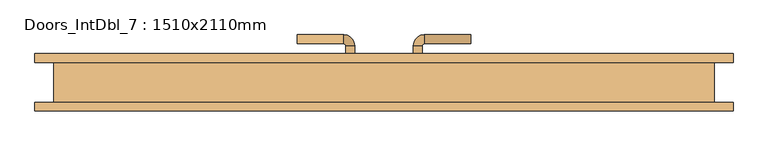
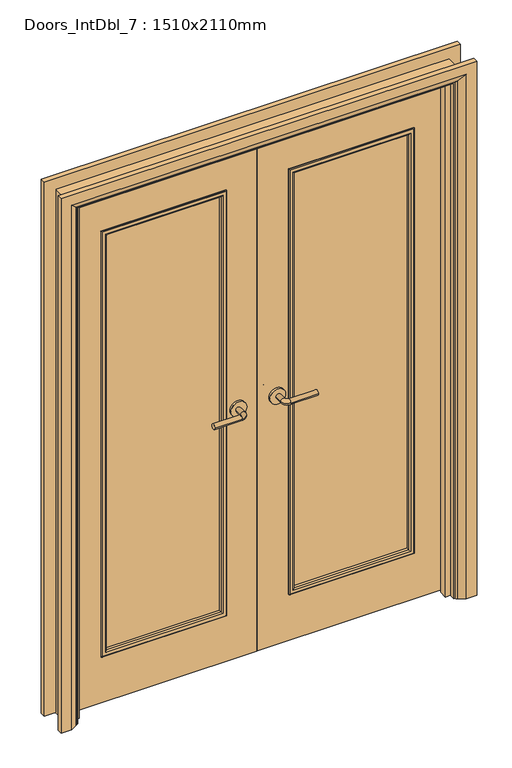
"""IFC4 building model written with IfcOpenShell, lengths in millimetres: door geometry, Doors_IntDbl_7 : 1510x2110mm."""

from ifc_helpers import new_model, si_unit, point, frame, frame_2d, origin, place, context, project, spatial, polyline, circle_curve, ellipse_curve, trimmed, segment, composite_curve, outline, extrude, faceted_brep, source, transform, mapped, element, save
from ifc_brep_helpers import plane_surface, cylinder_surface, revolved_surface, advanced_brep


def doors_intdbl_7_1510x2110mm_5c3abf43(model_context):
    return source(origin(), model_context, "Body", "SolidModel", [
        advanced_brep(
        [(-66.5, 5.0, 1007.0), (-86.5, 5.0, 1007.0), (-66.5, -25.0, 1007.0), (-86.5, -25.0, 1007.0), (-91.5, -30.0, 1007.0), (-91.5, -50.0, 1007.0), (-196.5, -50.0, 1007.0), (-196.5, -30.0, 1007.0)],
        [
            (0, 1, circle_curve(frame((-76.5, 5.0, 1007.0), z_axis=(0.0, 1.0, 0.0), x_axis=(-1.0, 0.0, 0.0)), 10.0)),
            (1, 0, circle_curve(frame((-76.5, 5.0, 1007.0), z_axis=(0.0, 1.0, 0.0), x_axis=(-1.0, 0.0, 0.0)), 10.0)),
            (0, 2),
            (2, 3, circle_curve(frame((-76.5, -25.0, 1007.0), z_axis=(0.0, 1.0, 0.0), x_axis=(-1.0, 0.0, 0.0)), 10.0)),
            (3, 1),
            (3, 2, circle_curve(frame((-76.5, -25.0, 1007.0), z_axis=(0.0, 1.0, 0.0), x_axis=(-1.0, 0.0, 0.0)), 10.0)),
            (4, 3, circle_curve(frame((-91.5, -25.0, 1007.0), z_axis=(0.0, 0.0, 1.0), x_axis=(1.0, 0.0, 0.0)), 5.0)),
            (2, 5, circle_curve(frame((-91.5, -25.0, 1007.0), z_axis=(0.0, 0.0, -1.0), x_axis=(1.0, 0.0, 0.0)), 25.0)),
            (5, 4, circle_curve(frame((-91.5, -40.0, 1007.0), z_axis=(1.0, 0.0, 0.0), x_axis=(0.0, 1.0, 0.0)), 10.0)),
            (4, 5, circle_curve(frame((-91.5, -40.0, 1007.0), z_axis=(1.0, 0.0, 0.0), x_axis=(0.0, 1.0, 0.0)), 10.0)),
            (6, 7, circle_curve(frame((-196.5, -40.0, 1007.0), z_axis=(-1.0, 0.0, 0.0), x_axis=(0.0, 1.0, 0.0)), 10.0)),
            (7, 6, circle_curve(frame((-196.5, -40.0, 1007.0), z_axis=(-1.0, 0.0, 0.0), x_axis=(0.0, 1.0, 0.0)), 10.0)),
            (5, 6),
            (7, 4),
        ],
        [
            plane_surface(frame((-76.5, 5.0, 1007.0), z_axis=(0.0, 1.0, 0.0), x_axis=(0.0, 0.0, 1.0))),
            cylinder_surface(frame((-76.5, 5.0, 1007.0), z_axis=(0.0, 1.0, 0.0), x_axis=(-1.0, 0.0, 0.0)), 10.0),
            revolved_surface(trimmed(ellipse_curve(frame((-76.5, -25.0, 1007.0), z_axis=(0.0, 1.0, 0.0), x_axis=(-1.0, 0.0, 0.0)), 10.0, 10.0), [point((-66.5, -25.0, 1007.0))], [point((-86.5, -25.0, 1007.0))], True, "CARTESIAN"), (-91.5, -25.0, 1007.0), (0.0, 0.0, -1.0)),
            revolved_surface(trimmed(ellipse_curve(frame((-76.5, -25.0, 1007.0), z_axis=(0.0, 1.0, 0.0), x_axis=(-1.0, 0.0, 0.0)), 10.0, 10.0), [point((-86.5, -25.0, 1007.0))], [point((-66.5, -25.0, 1007.0))], True, "CARTESIAN"), (-91.5, -25.0, 1007.0), (0.0, 0.0, -1.0)),
            plane_surface(frame((-196.5, -40.0, 1007.0), z_axis=(-1.0, 0.0, 0.0), x_axis=(0.0, 0.0, 1.0))),
            cylinder_surface(frame((-91.5, -40.0, 1007.0), z_axis=(1.0, 0.0, 0.0), x_axis=(0.0, 1.0, 0.0)), 10.0),
        ],
        [
            (0, [[1, 2]]),
            (1, [[-1, 3, 4, 5]]),
            (1, [[-2, -5, 6, -3]]),
            (2, [[7, -4, 8, 9]]),
            (3, [[-8, -6, -7, 10]]),
            (4, [[11, 12]]),
            (5, [[-9, 13, -12, 14]]),
            (5, [[-10, -14, -11, -13]]),
        ],
    ),
        extrude(outline(composite_curve([segment(trimmed(circle_curve(frame_2d((1007.0, -74.0)), 30.0), [point((1007.0, -44.0))], [point((1007.0, -104.0))], False, "CARTESIAN"), True, "CONTINUOUS"), segment(trimmed(circle_curve(frame_2d((1007.0, -74.0)), 30.0), [point((1007.0, -104.0))], [point((1007.0, -44.0))], False, "CARTESIAN"), True, "CONTINUOUS")], self_intersect=False)), frame((0.0, 5.0, 0.0), z_axis=(0.0, 1.0, 0.0), x_axis=(0.0, 0.0, 1.0)), (0.0, 0.0, 1.0), 8.0),
        advanced_brep(
        [(-66.5, 53.0, 1007.0), (-86.5, 53.0, 1007.0), (-86.5, 83.0, 1007.0), (-66.5, 83.0, 1007.0), (-91.5, 88.0, 1007.0), (-91.5, 108.0, 1007.0), (-196.5, 108.0, 1007.0), (-196.5, 88.0, 1007.0)],
        [
            (0, 1, circle_curve(frame((-76.5, 53.0, 1007.0), z_axis=(0.0, -1.0, 0.0), x_axis=(-1.0, 0.0, 0.0)), 10.0)),
            (1, 0, circle_curve(frame((-76.5, 53.0, 1007.0), z_axis=(0.0, -1.0, 0.0), x_axis=(-1.0, 0.0, 0.0)), 10.0)),
            (1, 2),
            (2, 3, circle_curve(frame((-76.5, 83.0, 1007.0), z_axis=(0.0, -1.0, 0.0), x_axis=(-1.0, 0.0, 0.0)), 10.0)),
            (3, 0),
            (3, 2, circle_curve(frame((-76.5, 83.0, 1007.0), z_axis=(0.0, -1.0, 0.0), x_axis=(-1.0, 0.0, 0.0)), 10.0)),
            (4, 5, circle_curve(frame((-91.5, 98.0, 1007.0), z_axis=(1.0, 0.0, 0.0), x_axis=(0.0, -1.0, 0.0)), 10.0)),
            (5, 3, circle_curve(frame((-91.5, 83.0, 1007.0), z_axis=(0.0, 0.0, -1.0), x_axis=(1.0, 0.0, 0.0)), 25.0)),
            (2, 4, circle_curve(frame((-91.5, 83.0, 1007.0), z_axis=(0.0, 0.0, 1.0), x_axis=(1.0, 0.0, 0.0)), 5.0)),
            (5, 4, circle_curve(frame((-91.5, 98.0, 1007.0), z_axis=(1.0, 0.0, 0.0), x_axis=(0.0, -1.0, 0.0)), 10.0)),
            (6, 7, circle_curve(frame((-196.5, 98.0, 1007.0), z_axis=(-1.0, 0.0, 0.0), x_axis=(0.0, -1.0, 0.0)), 10.0)),
            (7, 6, circle_curve(frame((-196.5, 98.0, 1007.0), z_axis=(-1.0, 0.0, 0.0), x_axis=(0.0, -1.0, 0.0)), 10.0)),
            (4, 7),
            (6, 5),
        ],
        [
            plane_surface(frame((-76.5, 53.0, 1007.0), z_axis=(0.0, -1.0, 0.0), x_axis=(0.0, 0.0, 1.0))),
            cylinder_surface(frame((-76.5, 53.0, 1007.0), z_axis=(0.0, -1.0, 0.0), x_axis=(-1.0, 0.0, 0.0)), 10.0),
            revolved_surface(trimmed(ellipse_curve(frame((-76.5, 83.0, 1007.0), z_axis=(0.0, 1.0, 0.0), x_axis=(-1.0, 0.0, 0.0)), 10.0, 10.0), [point((-66.5, 83.0, 1007.0))], [point((-86.5, 83.0, 1007.0))], True, "CARTESIAN"), (-91.5, 83.0, 1007.0), (0.0, 0.0, -1.0)),
            revolved_surface(trimmed(ellipse_curve(frame((-76.5, 83.0, 1007.0), z_axis=(0.0, 1.0, 0.0), x_axis=(-1.0, 0.0, 0.0)), 10.0, 10.0), [point((-86.5, 83.0, 1007.0))], [point((-66.5, 83.0, 1007.0))], True, "CARTESIAN"), (-91.5, 83.0, 1007.0), (0.0, 0.0, -1.0)),
            plane_surface(frame((-196.5, 98.0, 1007.0), z_axis=(-1.0, 0.0, 0.0), x_axis=(0.0, 0.0, 1.0))),
            cylinder_surface(frame((-91.5, 98.0, 1007.0), z_axis=(1.0, 0.0, 0.0), x_axis=(0.0, -1.0, 0.0)), 10.0),
        ],
        [
            (0, [[1, 2]]),
            (1, [[3, 4, 5, -2]]),
            (1, [[-5, 6, -3, -1]]),
            (2, [[7, 8, -4, 9]]),
            (3, [[10, -9, -6, -8]]),
            (4, [[11, 12]]),
            (5, [[13, -11, 14, -7]]),
            (5, [[-14, -12, -13, -10]]),
        ],
    ),
        extrude(outline(composite_curve([segment(trimmed(circle_curve(frame_2d((1007.0, -74.0)), 30.0), [point((1007.0, -44.0))], [point((1007.0, -104.0))], False, "CARTESIAN"), True, "CONTINUOUS"), segment(trimmed(circle_curve(frame_2d((1007.0, -74.0)), 30.0), [point((1007.0, -104.0))], [point((1007.0, -44.0))], False, "CARTESIAN"), True, "CONTINUOUS")], self_intersect=False)), frame((0.0, 45.0, 0.0), z_axis=(0.0, 1.0, 0.0), x_axis=(0.0, 0.0, 1.0)), (0.0, 0.0, 1.0), 8.0),
        advanced_brep(
        [(66.5, 5.0, 1007.0), (86.5, 5.0, 1007.0), (86.5, -25.0, 1007.0), (66.5, -25.0, 1007.0), (91.5, -30.0, 1007.0), (91.5, -50.0, 1007.0), (196.5, -50.0, 1007.0), (196.5, -30.0, 1007.0)],
        [
            (0, 1, circle_curve(frame((76.5, 5.0, 1007.0), z_axis=(0.0, 1.0, 0.0), x_axis=(1.0, 0.0, 0.0)), 10.0)),
            (1, 0, circle_curve(frame((76.5, 5.0, 1007.0), z_axis=(0.0, 1.0, 0.0), x_axis=(1.0, 0.0, 0.0)), 10.0)),
            (1, 2),
            (2, 3, circle_curve(frame((76.5, -25.0, 1007.0), z_axis=(0.0, 1.0, 0.0), x_axis=(1.0, 0.0, 0.0)), 10.0)),
            (3, 0),
            (3, 2, circle_curve(frame((76.5, -25.0, 1007.0), z_axis=(0.0, 1.0, 0.0), x_axis=(1.0, 0.0, 0.0)), 10.0)),
            (4, 5, circle_curve(frame((91.5, -40.0, 1007.0), z_axis=(-1.0, 0.0, 0.0), x_axis=(0.0, 1.0, 0.0)), 10.0)),
            (5, 3, circle_curve(frame((91.5, -25.0, 1007.0), z_axis=(0.0, 0.0, -1.0), x_axis=(-1.0, 0.0, 0.0)), 25.0)),
            (2, 4, circle_curve(frame((91.5, -25.0, 1007.0), z_axis=(0.0, 0.0, 1.0), x_axis=(-1.0, 0.0, 0.0)), 5.0)),
            (5, 4, circle_curve(frame((91.5, -40.0, 1007.0), z_axis=(-1.0, 0.0, 0.0), x_axis=(0.0, 1.0, 0.0)), 10.0)),
            (6, 7, circle_curve(frame((196.5, -40.0, 1007.0), z_axis=(1.0, 0.0, 0.0), x_axis=(0.0, 1.0, 0.0)), 10.0)),
            (7, 6, circle_curve(frame((196.5, -40.0, 1007.0), z_axis=(1.0, 0.0, 0.0), x_axis=(0.0, 1.0, 0.0)), 10.0)),
            (4, 7),
            (6, 5),
        ],
        [
            plane_surface(frame((76.5, 5.0, 1007.0), z_axis=(0.0, 1.0, 0.0), x_axis=(0.0, 0.0, 1.0))),
            cylinder_surface(frame((76.5, 5.0, 1007.0), z_axis=(0.0, 1.0, 0.0), x_axis=(1.0, 0.0, 0.0)), 10.0),
            revolved_surface(trimmed(ellipse_curve(frame((76.5, -25.0, 1007.0), z_axis=(0.0, -1.0, 0.0), x_axis=(1.0, 0.0, 0.0)), 10.0, 10.0), [point((66.5, -25.0, 1007.0))], [point((86.5, -25.0, 1007.0))], True, "CARTESIAN"), (91.5, -25.0, 1007.0), (0.0, 0.0, -1.0)),
            revolved_surface(trimmed(ellipse_curve(frame((76.5, -25.0, 1007.0), z_axis=(0.0, -1.0, 0.0), x_axis=(1.0, 0.0, 0.0)), 10.0, 10.0), [point((86.5, -25.0, 1007.0))], [point((66.5, -25.0, 1007.0))], True, "CARTESIAN"), (91.5, -25.0, 1007.0), (0.0, 0.0, -1.0)),
            plane_surface(frame((196.5, -40.0, 1007.0), z_axis=(1.0, 0.0, 0.0), x_axis=(0.0, 0.0, 1.0))),
            cylinder_surface(frame((91.5, -40.0, 1007.0), z_axis=(-1.0, 0.0, 0.0), x_axis=(0.0, 1.0, 0.0)), 10.0),
        ],
        [
            (0, [[1, 2]]),
            (1, [[3, 4, 5, -2]]),
            (1, [[-5, 6, -3, -1]]),
            (2, [[7, 8, -4, 9]]),
            (3, [[10, -9, -6, -8]]),
            (4, [[11, 12]]),
            (5, [[13, -11, 14, -7]]),
            (5, [[-14, -12, -13, -10]]),
        ],
    ),
        extrude(outline(composite_curve([segment(trimmed(circle_curve(frame_2d((1007.0, 74.0)), 30.0), [point((1007.0, 44.0))], [point((1007.0, 104.0))], False, "CARTESIAN"), True, "CONTINUOUS"), segment(trimmed(circle_curve(frame_2d((1007.0, 74.0)), 30.0), [point((1007.0, 104.0))], [point((1007.0, 44.0))], False, "CARTESIAN"), True, "CONTINUOUS")], self_intersect=False)), frame((0.0, 5.0, 0.0), z_axis=(0.0, 1.0, 0.0), x_axis=(0.0, 0.0, 1.0)), (0.0, 0.0, 1.0), 8.0),
        advanced_brep(
        [(66.5, 53.0, 1007.0), (86.5, 53.0, 1007.0), (66.5, 83.0, 1007.0), (86.5, 83.0, 1007.0), (91.5, 88.0, 1007.0), (91.5, 108.0, 1007.0), (196.5, 108.0, 1007.0), (196.5, 88.0, 1007.0)],
        [
            (0, 1, circle_curve(frame((76.5, 53.0, 1007.0), z_axis=(0.0, -1.0, 0.0), x_axis=(1.0, 0.0, 0.0)), 10.0)),
            (1, 0, circle_curve(frame((76.5, 53.0, 1007.0), z_axis=(0.0, -1.0, 0.0), x_axis=(1.0, 0.0, 0.0)), 10.0)),
            (0, 2),
            (2, 3, circle_curve(frame((76.5, 83.0, 1007.0), z_axis=(0.0, -1.0, 0.0), x_axis=(1.0, 0.0, 0.0)), 10.0)),
            (3, 1),
            (3, 2, circle_curve(frame((76.5, 83.0, 1007.0), z_axis=(0.0, -1.0, 0.0), x_axis=(1.0, 0.0, 0.0)), 10.0)),
            (4, 3, circle_curve(frame((91.5, 83.0, 1007.0), z_axis=(0.0, 0.0, 1.0), x_axis=(-1.0, 0.0, 0.0)), 5.0)),
            (2, 5, circle_curve(frame((91.5, 83.0, 1007.0), z_axis=(0.0, 0.0, -1.0), x_axis=(-1.0, 0.0, 0.0)), 25.0)),
            (5, 4, circle_curve(frame((91.5, 98.0, 1007.0), z_axis=(-1.0, 0.0, 0.0), x_axis=(0.0, -1.0, 0.0)), 10.0)),
            (4, 5, circle_curve(frame((91.5, 98.0, 1007.0), z_axis=(-1.0, 0.0, 0.0), x_axis=(0.0, -1.0, 0.0)), 10.0)),
            (6, 7, circle_curve(frame((196.5, 98.0, 1007.0), z_axis=(1.0, 0.0, 0.0), x_axis=(0.0, -1.0, 0.0)), 10.0)),
            (7, 6, circle_curve(frame((196.5, 98.0, 1007.0), z_axis=(1.0, 0.0, 0.0), x_axis=(0.0, -1.0, 0.0)), 10.0)),
            (5, 6),
            (7, 4),
        ],
        [
            plane_surface(frame((76.5, 53.0, 1007.0), z_axis=(0.0, -1.0, 0.0), x_axis=(0.0, 0.0, 1.0))),
            cylinder_surface(frame((76.5, 53.0, 1007.0), z_axis=(0.0, -1.0, 0.0), x_axis=(1.0, 0.0, 0.0)), 10.0),
            revolved_surface(trimmed(ellipse_curve(frame((76.5, 83.0, 1007.0), z_axis=(0.0, -1.0, 0.0), x_axis=(1.0, 0.0, 0.0)), 10.0, 10.0), [point((66.5, 83.0, 1007.0))], [point((86.5, 83.0, 1007.0))], True, "CARTESIAN"), (91.5, 83.0, 1007.0), (0.0, 0.0, -1.0)),
            revolved_surface(trimmed(ellipse_curve(frame((76.5, 83.0, 1007.0), z_axis=(0.0, -1.0, 0.0), x_axis=(1.0, 0.0, 0.0)), 10.0, 10.0), [point((86.5, 83.0, 1007.0))], [point((66.5, 83.0, 1007.0))], True, "CARTESIAN"), (91.5, 83.0, 1007.0), (0.0, 0.0, -1.0)),
            plane_surface(frame((196.5, 98.0, 1007.0), z_axis=(1.0, 0.0, 0.0), x_axis=(0.0, 0.0, 1.0))),
            cylinder_surface(frame((91.5, 98.0, 1007.0), z_axis=(-1.0, 0.0, 0.0), x_axis=(0.0, -1.0, 0.0)), 10.0),
        ],
        [
            (0, [[1, 2]]),
            (1, [[-1, 3, 4, 5]]),
            (1, [[-2, -5, 6, -3]]),
            (2, [[7, -4, 8, 9]]),
            (3, [[-8, -6, -7, 10]]),
            (4, [[11, 12]]),
            (5, [[-9, 13, -12, 14]]),
            (5, [[-10, -14, -11, -13]]),
        ],
    ),
        extrude(outline(composite_curve([segment(trimmed(circle_curve(frame_2d((1007.0, 74.0)), 30.0), [point((1007.0, 44.0))], [point((1007.0, 104.0))], False, "CARTESIAN"), True, "CONTINUOUS"), segment(trimmed(circle_curve(frame_2d((1007.0, 74.0)), 30.0), [point((1007.0, 104.0))], [point((1007.0, 44.0))], False, "CARTESIAN"), True, "CONTINUOUS")], self_intersect=False)), frame((0.0, 45.0, 0.0), z_axis=(0.0, 1.0, 0.0), x_axis=(0.0, 0.0, 1.0)), (0.0, 0.0, 1.0), 8.0),
        advanced_brep(
        [(-790.0, -65.0, 0.0), (-790.0, -45.0, 0.0), (-720.0, -45.0, 0.0), (-724.0, -51.0, 0.0), (-750.0, -65.0, 0.0), (-790.0, -65.0, 2145.0), (-790.0, -45.0, 2145.0), (790.0, -45.0, 2145.0), (790.0, -45.0, 0.0), (720.0, -45.0, 0.0), (720.0, -45.0, 2075.0), (-720.0, -45.0, 2075.0), (-724.0, -51.0, 2079.0), (-750.0, -65.0, 2105.0), (750.0, -65.0, 2105.0), (750.0, -65.0, 0.0), (790.0, -65.0, 0.0), (790.0, -65.0, 2145.0), (724.0, -51.0, 0.0), (724.0, -51.0, 2079.0)],
        [
            (0, 1),
            (1, 2),
            (2, 3, circle_curve(frame((-728.0, -44.0, 0.0), z_axis=(0.0, 0.0, -1.0), x_axis=(-1.0, 0.0, 0.0)), 8.0622577)),
            (3, 4),
            (4, 0),
            (0, 5),
            (5, 6),
            (6, 1),
            (6, 7),
            (7, 8),
            (8, 9),
            (9, 10),
            (10, 11),
            (11, 2),
            (11, 12, ellipse_curve(frame((-728.0, -44.0, 2083.0), z_axis=(-0.7071067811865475, 0.0, -0.7071067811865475), x_axis=(0.7071067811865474, 0.0, -0.7071067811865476)), 11.4017543, 8.0622577)),
            (12, 3),
            (12, 13),
            (13, 4),
            (13, 14),
            (14, 15),
            (15, 16),
            (16, 17),
            (17, 5),
            (7, 17),
            (16, 8),
            (15, 18),
            (18, 9, circle_curve(frame((728.0, -44.0, 0.0), z_axis=(0.0, 0.0, -1.0), x_axis=(1.0, 0.0, 0.0)), 8.0622577)),
            (19, 10, ellipse_curve(frame((728.0, -44.0, 2083.0), z_axis=(0.7071067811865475, 0.0, -0.7071067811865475), x_axis=(0.7071067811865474, 0.0, 0.7071067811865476)), 11.4017543, 8.0622577)),
            (18, 19),
            (14, 19),
            (19, 12),
        ],
        [
            plane_surface(frame((-720.0, -45.0, 0.0), z_axis=(0.0, 0.0, -1.0), x_axis=(0.0, -1.0, 0.0))),
            plane_surface(frame((-790.0, -65.0, 0.0), z_axis=(-1.0, 0.0, 0.0), x_axis=(0.0, 0.0, 1.0))),
            plane_surface(frame((-790.0, -45.0, 0.0), z_axis=(0.0, 1.0, 0.0), x_axis=(0.0, 0.0, 1.0))),
            cylinder_surface(frame((-728.0, -44.0, 0.0), z_axis=(0.0, 0.0, -1.0), x_axis=(-1.0, 0.0, 0.0)), 8.0622577),
            plane_surface(frame((-724.0, -51.0, 0.0), z_axis=(0.4740998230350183, -0.8804710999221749, 0.0), x_axis=(0.0, 0.0, 1.0))),
            plane_surface(frame((-750.0, -65.0, 0.0), z_axis=(0.0, -1.0, 0.0), x_axis=(0.0, 0.0, 1.0))),
            plane_surface(frame((790.0, -65.0, 2145.0), z_axis=(1.0, 0.0, 0.0), x_axis=(0.0, 0.0, -1.0))),
            plane_surface(frame((720.0, -45.0, 0.0), z_axis=(0.0, 0.0, -1.0), x_axis=(0.0, -1.0, 0.0))),
            cylinder_surface(frame((728.0, -44.0, 2075.0), z_axis=(0.0, 0.0, 1.0), x_axis=(1.0, 0.0, 0.0)), 8.0622577),
            plane_surface(frame((724.0, -51.0, 2079.0), z_axis=(-0.4740998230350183, -0.8804710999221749, 0.0), x_axis=(0.0, 0.0, -1.0))),
            plane_surface(frame((-790.0, -65.0, 2145.0), z_axis=(0.0, 0.0, 1.0), x_axis=(1.0, 0.0, 0.0))),
            cylinder_surface(frame((-720.0, -44.0, 2083.0), z_axis=(-1.0, 0.0, 0.0), x_axis=(0.0, 0.0, 1.0)), 8.0622577),
            plane_surface(frame((-724.0, -51.0, 2079.0), z_axis=(0.0, -0.8804710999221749, -0.4740998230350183), x_axis=(1.0, 0.0, 0.0))),
        ],
        [
            (0, [[1, 2, 3, 4, 5]]),
            (1, [[-1, 6, 7, 8]]),
            (2, [[-2, -8, 9, 10, 11, 12, 13, 14]]),
            (3, [[-3, -14, 15, 16]]),
            (4, [[-4, -16, 17, 18]]),
            (5, [[-5, -18, 19, 20, 21, 22, 23, -6]]),
            (6, [[24, -22, 25, -10]]),
            (7, [[-21, 26, 27, -11, -25]]),
            (8, [[28, -12, -27, 29]]),
            (9, [[30, -29, -26, -20]]),
            (10, [[-7, -23, -24, -9]]),
            (11, [[-15, -13, -28, 31]]),
            (12, [[-17, -31, -30, -19]]),
        ],
    ),
        advanced_brep(
        [(790.0, 65.0, 0.0), (790.0, 45.0, 0.0), (720.0, 45.0, 0.0), (724.0, 51.0, 0.0), (750.0, 65.0, 0.0), (790.0, 65.0, 2145.0), (790.0, 45.0, 2145.0), (-790.0, 45.0, 2145.0), (-790.0, 45.0, 0.0), (-720.0, 45.0, 0.0), (-720.0, 45.0, 2075.0), (720.0, 45.0, 2075.0), (724.0, 51.0, 2079.0), (750.0, 65.0, 2105.0), (-750.0, 65.0, 2105.0), (-750.0, 65.0, 0.0), (-790.0, 65.0, 0.0), (-790.0, 65.0, 2145.0), (-724.0, 51.0, 0.0), (-724.0, 51.0, 2079.0)],
        [
            (0, 1),
            (1, 2),
            (2, 3, circle_curve(frame((728.0, 44.0, 0.0), z_axis=(0.0, 0.0, -1.0), x_axis=(1.0, 0.0, 0.0)), 8.0622577)),
            (3, 4),
            (4, 0),
            (0, 5),
            (5, 6),
            (6, 1),
            (6, 7),
            (7, 8),
            (8, 9),
            (9, 10),
            (10, 11),
            (11, 2),
            (11, 12, ellipse_curve(frame((728.0, 44.0, 2083.0), z_axis=(0.7071067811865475, 0.0, -0.7071067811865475), x_axis=(-0.7071067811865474, 0.0, -0.7071067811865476)), 11.4017543, 8.0622577)),
            (12, 3),
            (12, 13),
            (13, 4),
            (13, 14),
            (14, 15),
            (15, 16),
            (16, 17),
            (17, 5),
            (7, 17),
            (16, 8),
            (15, 18),
            (18, 9, circle_curve(frame((-728.0, 44.0, 0.0), z_axis=(0.0, 0.0, -1.0), x_axis=(-1.0, 0.0, 0.0)), 8.0622577)),
            (19, 10, ellipse_curve(frame((-728.0, 44.0, 2083.0), z_axis=(-0.7071067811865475, 0.0, -0.7071067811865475), x_axis=(-0.7071067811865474, 0.0, 0.7071067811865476)), 11.4017543, 8.0622577)),
            (18, 19),
            (14, 19),
            (19, 12),
        ],
        [
            plane_surface(frame((720.0, 45.0, 0.0), z_axis=(0.0, 0.0, -1.0), x_axis=(0.0, -1.0, 0.0))),
            plane_surface(frame((790.0, 65.0, 0.0), z_axis=(1.0, 0.0, 0.0), x_axis=(0.0, 0.0, 1.0))),
            plane_surface(frame((790.0, 45.0, 0.0), z_axis=(0.0, -1.0, 0.0), x_axis=(0.0, 0.0, 1.0))),
            cylinder_surface(frame((728.0, 44.0, 0.0), z_axis=(0.0, 0.0, -1.0), x_axis=(1.0, 0.0, 0.0)), 8.0622577),
            plane_surface(frame((724.0, 51.0, 0.0), z_axis=(-0.4740998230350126, 0.8804710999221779, 0.0), x_axis=(0.0, 0.0, 1.0))),
            plane_surface(frame((750.0, 65.0, 0.0), z_axis=(0.0, 1.0, 0.0), x_axis=(0.0, 0.0, 1.0))),
            plane_surface(frame((-790.0, 65.0, 2145.0), z_axis=(-1.0, 0.0, 0.0), x_axis=(0.0, 0.0, -1.0))),
            plane_surface(frame((-720.0, 45.0, 0.0), z_axis=(0.0, 0.0, -1.0), x_axis=(0.0, -1.0, 0.0))),
            cylinder_surface(frame((-728.0, 44.0, 2075.0), z_axis=(0.0, 0.0, 1.0), x_axis=(-1.0, 0.0, 0.0)), 8.0622577),
            plane_surface(frame((-724.0, 51.0, 2079.0), z_axis=(0.4740998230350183, 0.8804710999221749, 0.0), x_axis=(0.0, 0.0, -1.0))),
            plane_surface(frame((790.0, 65.0, 2145.0), z_axis=(0.0, 0.0, 1.0), x_axis=(-1.0, 0.0, 0.0))),
            cylinder_surface(frame((720.0, 44.0, 2083.0), z_axis=(1.0, 0.0, 0.0), x_axis=(0.0, 0.0, 1.0)), 8.0622577),
            plane_surface(frame((724.0, 51.0, 2079.0), z_axis=(0.0, 0.8804710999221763, -0.4740998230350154), x_axis=(-1.0, 0.0, 0.0))),
        ],
        [
            (0, [[1, 2, 3, 4, 5]]),
            (1, [[-1, 6, 7, 8]]),
            (2, [[-2, -8, 9, 10, 11, 12, 13, 14]]),
            (3, [[-3, -14, 15, 16]]),
            (4, [[-4, -16, 17, 18]]),
            (5, [[-5, -18, 19, 20, 21, 22, 23, -6]]),
            (6, [[24, -22, 25, -10]]),
            (7, [[-21, 26, 27, -11, -25]]),
            (8, [[28, -12, -27, 29]]),
            (9, [[30, -29, -26, -20]]),
            (10, [[-7, -23, -24, -9]]),
            (11, [[-15, -13, -28, 31]]),
            (12, [[-17, -31, -30, -19]]),
        ],
    ),
        faceted_brep([(-696.0, 10.0, 0.0), (-696.0, -22.0, 0.0), (-715.0, -22.0, 0.0), (-715.0, 10.0, 0.0), (-696.0, 10.0, 2051.0), (-696.0, -22.0, 2051.0), (-715.0, -22.0, 2070.0), (-715.0, 10.0, 2070.0), (696.0, 10.0, 0.0), (715.0, 10.0, 0.0), (715.0, -22.0, 0.0), (696.0, -22.0, 0.0), (696.0, 10.0, 2051.0), (715.0, 10.0, 2070.0), (715.0, -22.0, 2070.0), (696.0, -22.0, 2051.0)], [[[0, 1, 2, 3]], [[1, 0, 4, 5]], [[2, 1, 5, 6]], [[3, 2, 6, 7]], [[0, 3, 7, 4]], [[8, 9, 10, 11]], [[12, 13, 9, 8]], [[13, 14, 10, 9]], [[14, 15, 11, 10]], [[15, 12, 8, 11]], [[5, 4, 12, 15]], [[6, 5, 15, 14]], [[7, 6, 14, 13]], [[4, 7, 13, 12]]]),
        extrude(outline(polyline([(2102.0, -747.0), (0.0, -747.0), (0.0, -715.0), (2070.0, -715.0), (2070.0, 715.0), (0.0, 715.0), (0.0, 747.0), (2102.0, 747.0), (2102.0, -747.0)])), frame((0.0, -45.0, 0.0), z_axis=(0.0, 1.0, 0.0), x_axis=(0.0, 0.0, 1.0)), (0.0, 0.0, 1.0), 90.0),
        extrude(outline(polyline([(-126.5, 23.0), (-587.0, 23.0), (-587.0, 35.0), (-126.5, 35.0), (-126.5, 23.0)])), frame((0.0, 0.0, 200.0), z_axis=(0.0, 0.0, 1.0), x_axis=(1.0, 0.0, 0.0)), (0.0, 0.0, 1.0), 1692.0),
        extrude(outline(polyline([(587.0, 23.0), (126.5, 23.0), (126.5, 35.0), (587.0, 35.0), (587.0, 23.0)])), frame((0.0, 0.0, 200.0), z_axis=(0.0, 0.0, 1.0), x_axis=(1.0, 0.0, 0.0)), (0.0, 0.0, 1.0), 1692.0),
        extrude(outline(polyline([(5.753223, -712.0), (5.753223, -1.5), (2067.0, -1.5), (2067.0, -712.0), (5.753223, -712.0)]), holes=[polyline([(1892.0, -587.0), (1892.0, -126.5), (200.0, -126.5), (200.0, -587.0), (1892.0, -587.0)])]), frame((0.0, 13.0, 0.0), z_axis=(0.0, 1.0, 0.0), x_axis=(0.0, 0.0, 1.0)), (0.0, 0.0, 1.0), 32.0),
        extrude(outline(polyline([(5.753223, 712.0), (2067.0, 712.0), (2067.0, 1.5), (5.753223, 1.5), (5.753223, 712.0)]), holes=[polyline([(1892.0, 126.5), (1892.0, 587.0), (200.0, 587.0), (200.0, 126.5), (1892.0, 126.5)])]), frame((0.0, 13.0, 0.0), z_axis=(0.0, 1.0, 0.0), x_axis=(0.0, 0.0, 1.0)), (0.0, 0.0, 1.0), 32.0),
        advanced_brep(
        [(-595.0, 49.0, 192.0), (-595.0, 45.0, 192.0), (-595.0, 45.0, 1900.0), (-595.0, 49.0, 1900.0), (-593.0, 51.0, 194.0), (-593.0, 51.0, 1898.0), (-575.0, 46.0, 212.0), (-580.0, 51.0, 207.0), (-580.0, 51.0, 1885.0), (-575.0, 46.0, 1880.0), (-575.0, 35.0, 212.0), (-575.0, 35.0, 1880.0), (-587.0, 45.0, 200.0), (-587.0, 35.0, 200.0), (-587.0, 35.0, 1892.0), (-587.0, 45.0, 1892.0), (-118.5, 45.0, 1900.0), (-118.5, 49.0, 1900.0), (-120.5, 51.0, 1898.0), (-133.5, 51.0, 1885.0), (-138.5, 46.0, 1880.0), (-138.5, 35.0, 1880.0), (-126.5, 35.0, 1892.0), (-126.5, 45.0, 1892.0), (-118.5, 45.0, 192.0), (-118.5, 49.0, 192.0), (-120.5, 51.0, 194.0), (-133.5, 51.0, 207.0), (-138.5, 46.0, 212.0), (-138.5, 35.0, 212.0), (-126.5, 35.0, 200.0), (-126.5, 45.0, 200.0)],
        [
            (0, 1),
            (1, 2),
            (2, 3),
            (3, 0),
            (4, 0, ellipse_curve(frame((-593.0, 49.0, 194.0), z_axis=(-0.7071067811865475, 0.0, 0.7071067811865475), x_axis=(-0.7071067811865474, 0.0, -0.7071067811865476)), 2.8284271, 2.0)),
            (3, 5, ellipse_curve(frame((-593.0, 49.0, 1898.0), z_axis=(-0.7071067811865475, 0.0, -0.7071067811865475), x_axis=(0.7071067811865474, 0.0, -0.7071067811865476)), 2.8284271, 2.0)),
            (5, 4),
            (6, 7, ellipse_curve(frame((-580.0, 46.0, 207.0), z_axis=(-0.7071067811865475, 0.0, 0.7071067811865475), x_axis=(-0.7071067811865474, 0.0, -0.7071067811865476)), 7.0710678, 5.0)),
            (7, 8),
            (8, 9, ellipse_curve(frame((-580.0, 46.0, 1885.0), z_axis=(-0.7071067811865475, 0.0, -0.7071067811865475), x_axis=(0.7071067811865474, 0.0, -0.7071067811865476)), 7.0710678, 5.0)),
            (9, 6),
            (10, 6),
            (9, 11),
            (11, 10),
            (12, 13),
            (13, 14),
            (14, 15),
            (15, 12),
            (2, 16),
            (16, 17),
            (17, 3),
            (17, 18, ellipse_curve(frame((-120.5, 49.0, 1898.0), z_axis=(-0.7071067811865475, 0.0, 0.7071067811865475), x_axis=(-0.7071067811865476, 0.0, -0.7071067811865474)), 2.8284271, 2.0)),
            (18, 5),
            (8, 19),
            (19, 20, ellipse_curve(frame((-133.5, 46.0, 1885.0), z_axis=(-0.7071067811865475, 0.0, 0.7071067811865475), x_axis=(-0.7071067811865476, 0.0, -0.7071067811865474)), 7.0710678, 5.0)),
            (20, 9),
            (20, 21),
            (21, 11),
            (14, 22),
            (22, 23),
            (23, 15),
            (16, 24),
            (24, 25),
            (25, 17),
            (25, 26, ellipse_curve(frame((-120.5, 49.0, 194.0), z_axis=(0.7071067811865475, 0.0, 0.7071067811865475), x_axis=(-0.7071067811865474, 0.0, 0.7071067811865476)), 2.8284271, 2.0)),
            (26, 18),
            (19, 27),
            (27, 28, ellipse_curve(frame((-133.5, 46.0, 207.0), z_axis=(0.7071067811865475, 0.0, 0.7071067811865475), x_axis=(-0.7071067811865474, 0.0, 0.7071067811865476)), 7.0710678, 5.0)),
            (28, 20),
            (28, 29),
            (29, 21),
            (22, 30),
            (30, 31),
            (31, 23),
            (24, 1),
            (0, 25),
            (4, 26),
            (7, 27),
            (6, 28),
            (10, 29),
            (13, 30),
            (12, 31),
        ],
        [
            plane_surface(frame((-595.0, 45.0, 192.0), z_axis=(-1.0, 0.0, 0.0), x_axis=(0.0, 0.0, 1.0))),
            cylinder_surface(frame((-593.0, 49.0, 200.0), z_axis=(0.0, 0.0, -1.0), x_axis=(-1.0, 0.0, 0.0)), 2.0),
            cylinder_surface(frame((-580.0, 46.0, 200.0), z_axis=(0.0, 0.0, -1.0), x_axis=(-1.0, 0.0, 0.0)), 5.0),
            plane_surface(frame((-575.0, 46.0, 212.0), z_axis=(1.0, 0.0, 0.0), x_axis=(0.0, 0.0, 1.0))),
            plane_surface(frame((-587.0, 35.0, 200.0), z_axis=(-1.0, 0.0, 0.0), x_axis=(0.0, 0.0, 1.0))),
            plane_surface(frame((-595.0, 45.0, 1900.0), z_axis=(0.0, 0.0, 1.0), x_axis=(1.0, 0.0, 0.0))),
            cylinder_surface(frame((-587.0, 49.0, 1898.0), z_axis=(-1.0, 0.0, 0.0), x_axis=(0.0, 0.0, 1.0)), 2.0),
            cylinder_surface(frame((-587.0, 46.0, 1885.0), z_axis=(-1.0, 0.0, 0.0), x_axis=(0.0, 0.0, 1.0)), 5.0),
            plane_surface(frame((-575.0, 46.0, 1880.0), z_axis=(0.0, 0.0, -1.0), x_axis=(1.0, 0.0, 0.0))),
            plane_surface(frame((-587.0, 35.0, 1892.0), z_axis=(0.0, 0.0, 1.0), x_axis=(1.0, 0.0, 0.0))),
            plane_surface(frame((-118.5, 45.0, 1900.0), z_axis=(1.0, 0.0, 0.0), x_axis=(0.0, 0.0, -1.0))),
            cylinder_surface(frame((-120.5, 49.0, 1892.0), z_axis=(0.0, 0.0, 1.0), x_axis=(1.0, 0.0, 0.0)), 2.0),
            cylinder_surface(frame((-133.5, 46.0, 1892.0), z_axis=(0.0, 0.0, 1.0), x_axis=(1.0, 0.0, 0.0)), 5.0),
            plane_surface(frame((-138.5, 46.0, 1880.0), z_axis=(-1.0, 0.0, 0.0), x_axis=(0.0, 0.0, -1.0))),
            plane_surface(frame((-126.5, 35.0, 1892.0), z_axis=(1.0, 0.0, 0.0), x_axis=(0.0, 0.0, -1.0))),
            plane_surface(frame((-118.5, 45.0, 192.0), z_axis=(0.0, 0.0, -1.0), x_axis=(-1.0, 0.0, 0.0))),
            cylinder_surface(frame((-126.5, 49.0, 194.0), z_axis=(1.0, 0.0, 0.0), x_axis=(0.0, 0.0, -1.0)), 2.0),
            plane_surface(frame((-120.5, 51.0, 194.0), z_axis=(0.0, 1.0, 0.0), x_axis=(-1.0, 0.0, 0.0))),
            cylinder_surface(frame((-126.5, 46.0, 207.0), z_axis=(1.0, 0.0, 0.0), x_axis=(0.0, 0.0, -1.0)), 5.0),
            plane_surface(frame((-138.5, 46.0, 212.0), z_axis=(0.0, 0.0, 1.0), x_axis=(-1.0, 0.0, 0.0))),
            plane_surface(frame((-138.5, 35.0, 212.0), z_axis=(0.0, -1.0, 0.0), x_axis=(-1.0, 0.0, 0.0))),
            plane_surface(frame((-126.5, 35.0, 200.0), z_axis=(0.0, 0.0, -1.0), x_axis=(-1.0, 0.0, 0.0))),
            plane_surface(frame((-126.5, 45.0, 200.0), z_axis=(0.0, -1.0, 0.0), x_axis=(-1.0, 0.0, 0.0))),
        ],
        [
            (0, [[1, 2, 3, 4]]),
            (1, [[5, -4, 6, 7]]),
            (2, [[8, 9, 10, 11]]),
            (3, [[12, -11, 13, 14]]),
            (4, [[15, 16, 17, 18]]),
            (5, [[-3, 19, 20, 21]]),
            (6, [[-6, -21, 22, 23]]),
            (7, [[-10, 24, 25, 26]]),
            (8, [[-13, -26, 27, 28]]),
            (9, [[-17, 29, 30, 31]]),
            (10, [[-20, 32, 33, 34]]),
            (11, [[-22, -34, 35, 36]]),
            (12, [[-25, 37, 38, 39]]),
            (13, [[-27, -39, 40, 41]]),
            (14, [[-30, 42, 43, 44]]),
            (15, [[-33, 45, -1, 46]]),
            (16, [[-35, -46, -5, 47]]),
            (17, [[-23, -36, -47, -7], [48, -37, -24, -9]]),
            (18, [[-38, -48, -8, 49]]),
            (19, [[-40, -49, -12, 50]]),
            (20, [[51, -42, -29, -16], [-28, -41, -50, -14]]),
            (21, [[-43, -51, -15, 52]]),
            (22, [[-45, -32, -19, -2], [-31, -44, -52, -18]]),
        ],
    ),
        advanced_brep(
        [(587.0, 23.0, 1892.0), (587.0, 13.0, 1892.0), (587.0, 13.0, 200.0), (587.0, 23.0, 200.0), (575.0, 12.0, 1880.0), (575.0, 23.0, 1880.0), (575.0, 23.0, 212.0), (575.0, 12.0, 212.0), (580.0, 7.0, 1885.0), (580.0, 7.0, 207.0), (595.0, 9.0, 1900.0), (593.0, 7.0, 1898.0), (593.0, 7.0, 194.0), (595.0, 9.0, 192.0), (595.0, 13.0, 1900.0), (595.0, 13.0, 192.0), (126.5, 13.0, 200.0), (126.5, 23.0, 200.0), (138.5, 23.0, 212.0), (138.5, 12.0, 212.0), (133.5, 7.0, 207.0), (120.5, 7.0, 194.0), (118.5, 9.0, 192.0), (118.5, 13.0, 192.0), (126.5, 13.0, 1892.0), (126.5, 23.0, 1892.0), (138.5, 23.0, 1880.0), (138.5, 12.0, 1880.0), (133.5, 7.0, 1885.0), (120.5, 7.0, 1898.0), (118.5, 9.0, 1900.0), (118.5, 13.0, 1900.0)],
        [
            (0, 1),
            (1, 2),
            (2, 3),
            (3, 0),
            (4, 5),
            (5, 6),
            (6, 7),
            (7, 4),
            (8, 4, ellipse_curve(frame((580.0, 12.0, 1885.0), z_axis=(0.7071067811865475, 0.0, -0.7071067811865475), x_axis=(0.7071067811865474, 0.0, 0.7071067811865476)), 7.0710678, 5.0)),
            (7, 9, ellipse_curve(frame((580.0, 12.0, 207.0), z_axis=(0.7071067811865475, 0.0, 0.7071067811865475), x_axis=(-0.7071067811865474, 0.0, 0.7071067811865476)), 7.0710678, 5.0)),
            (9, 8),
            (10, 11, ellipse_curve(frame((593.0, 9.0, 1898.0), z_axis=(0.7071067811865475, 0.0, -0.7071067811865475), x_axis=(0.7071067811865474, 0.0, 0.7071067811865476)), 2.8284271, 2.0)),
            (11, 12),
            (12, 13, ellipse_curve(frame((593.0, 9.0, 194.0), z_axis=(0.7071067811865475, 0.0, 0.7071067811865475), x_axis=(-0.7071067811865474, 0.0, 0.7071067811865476)), 2.8284271, 2.0)),
            (13, 10),
            (14, 10),
            (13, 15),
            (15, 14),
            (2, 16),
            (16, 17),
            (17, 3),
            (6, 18),
            (18, 19),
            (19, 7),
            (19, 20, ellipse_curve(frame((133.5, 12.0, 207.0), z_axis=(0.7071067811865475, 0.0, -0.7071067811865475), x_axis=(0.7071067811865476, 0.0, 0.7071067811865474)), 7.0710678, 5.0)),
            (20, 9),
            (12, 21),
            (21, 22, ellipse_curve(frame((120.5, 9.0, 194.0), z_axis=(0.7071067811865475, 0.0, -0.7071067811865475), x_axis=(0.7071067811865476, 0.0, 0.7071067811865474)), 2.8284271, 2.0)),
            (22, 13),
            (22, 23),
            (23, 15),
            (16, 24),
            (24, 25),
            (25, 17),
            (18, 26),
            (26, 27),
            (27, 19),
            (27, 28, ellipse_curve(frame((133.5, 12.0, 1885.0), z_axis=(-0.7071067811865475, 0.0, -0.7071067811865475), x_axis=(0.7071067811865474, 0.0, -0.7071067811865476)), 7.0710678, 5.0)),
            (28, 20),
            (21, 29),
            (29, 30, ellipse_curve(frame((120.5, 9.0, 1898.0), z_axis=(-0.7071067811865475, 0.0, -0.7071067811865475), x_axis=(0.7071067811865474, 0.0, -0.7071067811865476)), 2.8284271, 2.0)),
            (30, 22),
            (30, 31),
            (31, 23),
            (31, 14),
            (1, 24),
            (0, 25),
            (5, 26),
            (4, 27),
            (8, 28),
            (11, 29),
            (10, 30),
        ],
        [
            plane_surface(frame((587.0, 13.0, 1892.0), z_axis=(1.0, 0.0, 0.0), x_axis=(0.0, 0.0, -1.0))),
            plane_surface(frame((575.0, 23.0, 1880.0), z_axis=(-1.0, 0.0, 0.0), x_axis=(0.0, 0.0, -1.0))),
            cylinder_surface(frame((580.0, 12.0, 1892.0), z_axis=(0.0, 0.0, 1.0), x_axis=(1.0, 0.0, 0.0)), 5.0),
            cylinder_surface(frame((593.0, 9.0, 1892.0), z_axis=(0.0, 0.0, 1.0), x_axis=(1.0, 0.0, 0.0)), 2.0),
            plane_surface(frame((595.0, 9.0, 1900.0), z_axis=(1.0, 0.0, 0.0), x_axis=(0.0, 0.0, -1.0))),
            plane_surface(frame((587.0, 13.0, 200.0), z_axis=(0.0, 0.0, -1.0), x_axis=(-1.0, 0.0, 0.0))),
            plane_surface(frame((575.0, 23.0, 212.0), z_axis=(0.0, 0.0, 1.0), x_axis=(-1.0, 0.0, 0.0))),
            cylinder_surface(frame((587.0, 12.0, 207.0), z_axis=(1.0, 0.0, 0.0), x_axis=(0.0, 0.0, -1.0)), 5.0),
            cylinder_surface(frame((587.0, 9.0, 194.0), z_axis=(1.0, 0.0, 0.0), x_axis=(0.0, 0.0, -1.0)), 2.0),
            plane_surface(frame((595.0, 9.0, 192.0), z_axis=(0.0, 0.0, -1.0), x_axis=(-1.0, 0.0, 0.0))),
            plane_surface(frame((126.5, 13.0, 200.0), z_axis=(-1.0, 0.0, 0.0), x_axis=(0.0, 0.0, 1.0))),
            plane_surface(frame((138.5, 23.0, 212.0), z_axis=(1.0, 0.0, 0.0), x_axis=(0.0, 0.0, 1.0))),
            cylinder_surface(frame((133.5, 12.0, 200.0), z_axis=(0.0, 0.0, -1.0), x_axis=(-1.0, 0.0, 0.0)), 5.0),
            cylinder_surface(frame((120.5, 9.0, 200.0), z_axis=(0.0, 0.0, -1.0), x_axis=(-1.0, 0.0, 0.0)), 2.0),
            plane_surface(frame((118.5, 9.0, 192.0), z_axis=(-1.0, 0.0, 0.0), x_axis=(0.0, 0.0, 1.0))),
            plane_surface(frame((118.5, 13.0, 1900.0), z_axis=(0.0, 1.0, 0.0), x_axis=(1.0, 0.0, 0.0))),
            plane_surface(frame((126.5, 13.0, 1892.0), z_axis=(0.0, 0.0, 1.0), x_axis=(1.0, 0.0, 0.0))),
            plane_surface(frame((126.5, 23.0, 1892.0), z_axis=(0.0, 1.0, 0.0), x_axis=(1.0, 0.0, 0.0))),
            plane_surface(frame((138.5, 23.0, 1880.0), z_axis=(0.0, 0.0, -1.0), x_axis=(1.0, 0.0, 0.0))),
            cylinder_surface(frame((126.5, 12.0, 1885.0), z_axis=(-1.0, 0.0, 0.0), x_axis=(0.0, 0.0, 1.0)), 5.0),
            plane_surface(frame((133.5, 7.0, 1885.0), z_axis=(0.0, -1.0, 0.0), x_axis=(1.0, 0.0, 0.0))),
            cylinder_surface(frame((126.5, 9.0, 1898.0), z_axis=(-1.0, 0.0, 0.0), x_axis=(0.0, 0.0, 1.0)), 2.0),
            plane_surface(frame((118.5, 9.0, 1900.0), z_axis=(0.0, 0.0, 1.0), x_axis=(1.0, 0.0, 0.0))),
        ],
        [
            (0, [[1, 2, 3, 4]]),
            (1, [[5, 6, 7, 8]]),
            (2, [[9, -8, 10, 11]]),
            (3, [[12, 13, 14, 15]]),
            (4, [[16, -15, 17, 18]]),
            (5, [[-3, 19, 20, 21]]),
            (6, [[-7, 22, 23, 24]]),
            (7, [[-10, -24, 25, 26]]),
            (8, [[-14, 27, 28, 29]]),
            (9, [[-17, -29, 30, 31]]),
            (10, [[-20, 32, 33, 34]]),
            (11, [[-23, 35, 36, 37]]),
            (12, [[-25, -37, 38, 39]]),
            (13, [[-28, 40, 41, 42]]),
            (14, [[-30, -42, 43, 44]]),
            (15, [[-31, -44, 45, -18], [46, -32, -19, -2]]),
            (16, [[-33, -46, -1, 47]]),
            (17, [[-21, -34, -47, -4], [48, -35, -22, -6]]),
            (18, [[-36, -48, -5, 49]]),
            (19, [[-38, -49, -9, 50]]),
            (20, [[51, -40, -27, -13], [-26, -39, -50, -11]]),
            (21, [[-41, -51, -12, 52]]),
            (22, [[-43, -52, -16, -45]]),
        ],
    ),
        advanced_brep(
        [(-126.5, 23.0, 1892.0), (-126.5, 13.0, 1892.0), (-126.5, 13.0, 200.0), (-126.5, 23.0, 200.0), (-138.5, 12.0, 1880.0), (-138.5, 23.0, 1880.0), (-138.5, 23.0, 212.0), (-138.5, 12.0, 212.0), (-133.5, 7.0, 1885.0), (-133.5, 7.0, 207.0), (-118.5, 9.0, 1900.0), (-120.5, 7.0, 1898.0), (-120.5, 7.0, 194.0), (-118.5, 9.0, 192.0), (-118.5, 13.0, 1900.0), (-118.5, 13.0, 192.0), (-587.0, 13.0, 200.0), (-587.0, 23.0, 200.0), (-575.0, 23.0, 212.0), (-575.0, 12.0, 212.0), (-580.0, 7.0, 207.0), (-593.0, 7.0, 194.0), (-595.0, 9.0, 192.0), (-595.0, 13.0, 192.0), (-587.0, 13.0, 1892.0), (-587.0, 23.0, 1892.0), (-575.0, 23.0, 1880.0), (-575.0, 12.0, 1880.0), (-580.0, 7.0, 1885.0), (-593.0, 7.0, 1898.0), (-595.0, 9.0, 1900.0), (-595.0, 13.0, 1900.0)],
        [
            (0, 1),
            (1, 2),
            (2, 3),
            (3, 0),
            (4, 5),
            (5, 6),
            (6, 7),
            (7, 4),
            (8, 4, ellipse_curve(frame((-133.5, 12.0, 1885.0), z_axis=(0.7071067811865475, 0.0, -0.7071067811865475), x_axis=(0.7071067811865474, 0.0, 0.7071067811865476)), 7.0710678, 5.0)),
            (7, 9, ellipse_curve(frame((-133.5, 12.0, 207.0), z_axis=(0.7071067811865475, 0.0, 0.7071067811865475), x_axis=(-0.7071067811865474, 0.0, 0.7071067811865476)), 7.0710678, 5.0)),
            (9, 8),
            (10, 11, ellipse_curve(frame((-120.5, 9.0, 1898.0), z_axis=(0.7071067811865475, 0.0, -0.7071067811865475), x_axis=(0.7071067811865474, 0.0, 0.7071067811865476)), 2.8284271, 2.0)),
            (11, 12),
            (12, 13, ellipse_curve(frame((-120.5, 9.0, 194.0), z_axis=(0.7071067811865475, 0.0, 0.7071067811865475), x_axis=(-0.7071067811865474, 0.0, 0.7071067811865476)), 2.8284271, 2.0)),
            (13, 10),
            (14, 10),
            (13, 15),
            (15, 14),
            (2, 16),
            (16, 17),
            (17, 3),
            (6, 18),
            (18, 19),
            (19, 7),
            (19, 20, ellipse_curve(frame((-580.0, 12.0, 207.0), z_axis=(0.7071067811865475, 0.0, -0.7071067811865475), x_axis=(0.7071067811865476, 0.0, 0.7071067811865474)), 7.0710678, 5.0)),
            (20, 9),
            (12, 21),
            (21, 22, ellipse_curve(frame((-593.0, 9.0, 194.0), z_axis=(0.7071067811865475, 0.0, -0.7071067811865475), x_axis=(0.7071067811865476, 0.0, 0.7071067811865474)), 2.8284271, 2.0)),
            (22, 13),
            (22, 23),
            (23, 15),
            (16, 24),
            (24, 25),
            (25, 17),
            (18, 26),
            (26, 27),
            (27, 19),
            (27, 28, ellipse_curve(frame((-580.0, 12.0, 1885.0), z_axis=(-0.7071067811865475, 0.0, -0.7071067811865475), x_axis=(0.7071067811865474, 0.0, -0.7071067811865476)), 7.0710678, 5.0)),
            (28, 20),
            (21, 29),
            (29, 30, ellipse_curve(frame((-593.0, 9.0, 1898.0), z_axis=(-0.7071067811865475, 0.0, -0.7071067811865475), x_axis=(0.7071067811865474, 0.0, -0.7071067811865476)), 2.8284271, 2.0)),
            (30, 22),
            (30, 31),
            (31, 23),
            (31, 14),
            (1, 24),
            (0, 25),
            (5, 26),
            (4, 27),
            (8, 28),
            (11, 29),
            (10, 30),
        ],
        [
            plane_surface(frame((-126.5, 13.0, 1892.0), z_axis=(1.0, 0.0, 0.0), x_axis=(0.0, 0.0, -1.0))),
            plane_surface(frame((-138.5, 23.0, 1880.0), z_axis=(-1.0, 0.0, 0.0), x_axis=(0.0, 0.0, -1.0))),
            cylinder_surface(frame((-133.5, 12.0, 1892.0), z_axis=(0.0, 0.0, 1.0), x_axis=(1.0, 0.0, 0.0)), 5.0),
            cylinder_surface(frame((-120.5, 9.0, 1892.0), z_axis=(0.0, 0.0, 1.0), x_axis=(1.0, 0.0, 0.0)), 2.0),
            plane_surface(frame((-118.5, 9.0, 1900.0), z_axis=(1.0, 0.0, 0.0), x_axis=(0.0, 0.0, -1.0))),
            plane_surface(frame((-126.5, 13.0, 200.0), z_axis=(0.0, 0.0, -1.0), x_axis=(-1.0, 0.0, 0.0))),
            plane_surface(frame((-138.5, 23.0, 212.0), z_axis=(0.0, 0.0, 1.0), x_axis=(-1.0, 0.0, 0.0))),
            cylinder_surface(frame((-126.5, 12.0, 207.0), z_axis=(1.0, 0.0, 0.0), x_axis=(0.0, 0.0, -1.0)), 5.0),
            cylinder_surface(frame((-126.5, 9.0, 194.0), z_axis=(1.0, 0.0, 0.0), x_axis=(0.0, 0.0, -1.0)), 2.0),
            plane_surface(frame((-118.5, 9.0, 192.0), z_axis=(0.0, 0.0, -1.0), x_axis=(-1.0, 0.0, 0.0))),
            plane_surface(frame((-587.0, 13.0, 200.0), z_axis=(-1.0, 0.0, 0.0), x_axis=(0.0, 0.0, 1.0))),
            plane_surface(frame((-575.0, 23.0, 212.0), z_axis=(1.0, 0.0, 0.0), x_axis=(0.0, 0.0, 1.0))),
            cylinder_surface(frame((-580.0, 12.0, 200.0), z_axis=(0.0, 0.0, -1.0), x_axis=(-1.0, 0.0, 0.0)), 5.0),
            cylinder_surface(frame((-593.0, 9.0, 200.0), z_axis=(0.0, 0.0, -1.0), x_axis=(-1.0, 0.0, 0.0)), 2.0),
            plane_surface(frame((-595.0, 9.0, 192.0), z_axis=(-1.0, 0.0, 0.0), x_axis=(0.0, 0.0, 1.0))),
            plane_surface(frame((-595.0, 13.0, 1900.0), z_axis=(0.0, 1.0, 0.0), x_axis=(1.0, 0.0, 0.0))),
            plane_surface(frame((-587.0, 13.0, 1892.0), z_axis=(0.0, 0.0, 1.0), x_axis=(1.0, 0.0, 0.0))),
            plane_surface(frame((-587.0, 23.0, 1892.0), z_axis=(0.0, 1.0, 0.0), x_axis=(1.0, 0.0, 0.0))),
            plane_surface(frame((-575.0, 23.0, 1880.0), z_axis=(0.0, 0.0, -1.0), x_axis=(1.0, 0.0, 0.0))),
            cylinder_surface(frame((-587.0, 12.0, 1885.0), z_axis=(-1.0, 0.0, 0.0), x_axis=(0.0, 0.0, 1.0)), 5.0),
            plane_surface(frame((-580.0, 7.0, 1885.0), z_axis=(0.0, -1.0, 0.0), x_axis=(1.0, 0.0, 0.0))),
            cylinder_surface(frame((-587.0, 9.0, 1898.0), z_axis=(-1.0, 0.0, 0.0), x_axis=(0.0, 0.0, 1.0)), 2.0),
            plane_surface(frame((-595.0, 9.0, 1900.0), z_axis=(0.0, 0.0, 1.0), x_axis=(1.0, 0.0, 0.0))),
        ],
        [
            (0, [[1, 2, 3, 4]]),
            (1, [[5, 6, 7, 8]]),
            (2, [[9, -8, 10, 11]]),
            (3, [[12, 13, 14, 15]]),
            (4, [[16, -15, 17, 18]]),
            (5, [[-3, 19, 20, 21]]),
            (6, [[-7, 22, 23, 24]]),
            (7, [[-10, -24, 25, 26]]),
            (8, [[-14, 27, 28, 29]]),
            (9, [[-17, -29, 30, 31]]),
            (10, [[-20, 32, 33, 34]]),
            (11, [[-23, 35, 36, 37]]),
            (12, [[-25, -37, 38, 39]]),
            (13, [[-28, 40, 41, 42]]),
            (14, [[-30, -42, 43, 44]]),
            (15, [[-31, -44, 45, -18], [46, -32, -19, -2]]),
            (16, [[-33, -46, -1, 47]]),
            (17, [[-21, -34, -47, -4], [48, -35, -22, -6]]),
            (18, [[-36, -48, -5, 49]]),
            (19, [[-38, -49, -9, 50]]),
            (20, [[51, -40, -27, -13], [-26, -39, -50, -11]]),
            (21, [[-41, -51, -12, 52]]),
            (22, [[-43, -52, -16, -45]]),
        ],
    ),
        advanced_brep(
        [(118.5, 49.0, 192.0), (118.5, 45.0, 192.0), (118.5, 45.0, 1900.0), (118.5, 49.0, 1900.0), (120.5, 51.0, 194.0), (120.5, 51.0, 1898.0), (138.5, 46.0, 212.0), (133.5, 51.0, 207.0), (133.5, 51.0, 1885.0), (138.5, 46.0, 1880.0), (138.5, 35.0, 212.0), (138.5, 35.0, 1880.0), (126.5, 45.0, 200.0), (126.5, 35.0, 200.0), (126.5, 35.0, 1892.0), (126.5, 45.0, 1892.0), (595.0, 45.0, 1900.0), (595.0, 49.0, 1900.0), (593.0, 51.0, 1898.0), (580.0, 51.0, 1885.0), (575.0, 46.0, 1880.0), (575.0, 35.0, 1880.0), (587.0, 35.0, 1892.0), (587.0, 45.0, 1892.0), (595.0, 45.0, 192.0), (595.0, 49.0, 192.0), (593.0, 51.0, 194.0), (580.0, 51.0, 207.0), (575.0, 46.0, 212.0), (575.0, 35.0, 212.0), (587.0, 35.0, 200.0), (587.0, 45.0, 200.0)],
        [
            (0, 1),
            (1, 2),
            (2, 3),
            (3, 0),
            (4, 0, ellipse_curve(frame((120.5, 49.0, 194.0), z_axis=(-0.7071067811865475, 0.0, 0.7071067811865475), x_axis=(-0.7071067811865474, 0.0, -0.7071067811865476)), 2.8284271, 2.0)),
            (3, 5, ellipse_curve(frame((120.5, 49.0, 1898.0), z_axis=(-0.7071067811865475, 0.0, -0.7071067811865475), x_axis=(0.7071067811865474, 0.0, -0.7071067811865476)), 2.8284271, 2.0)),
            (5, 4),
            (6, 7, ellipse_curve(frame((133.5, 46.0, 207.0), z_axis=(-0.7071067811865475, 0.0, 0.7071067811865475), x_axis=(-0.7071067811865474, 0.0, -0.7071067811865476)), 7.0710678, 5.0)),
            (7, 8),
            (8, 9, ellipse_curve(frame((133.5, 46.0, 1885.0), z_axis=(-0.7071067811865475, 0.0, -0.7071067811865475), x_axis=(0.7071067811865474, 0.0, -0.7071067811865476)), 7.0710678, 5.0)),
            (9, 6),
            (10, 6),
            (9, 11),
            (11, 10),
            (12, 13),
            (13, 14),
            (14, 15),
            (15, 12),
            (2, 16),
            (16, 17),
            (17, 3),
            (17, 18, ellipse_curve(frame((593.0, 49.0, 1898.0), z_axis=(-0.7071067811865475, 0.0, 0.7071067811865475), x_axis=(-0.7071067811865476, 0.0, -0.7071067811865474)), 2.8284271, 2.0)),
            (18, 5),
            (8, 19),
            (19, 20, ellipse_curve(frame((580.0, 46.0, 1885.0), z_axis=(-0.7071067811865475, 0.0, 0.7071067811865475), x_axis=(-0.7071067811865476, 0.0, -0.7071067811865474)), 7.0710678, 5.0)),
            (20, 9),
            (20, 21),
            (21, 11),
            (14, 22),
            (22, 23),
            (23, 15),
            (16, 24),
            (24, 25),
            (25, 17),
            (25, 26, ellipse_curve(frame((593.0, 49.0, 194.0), z_axis=(0.7071067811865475, 0.0, 0.7071067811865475), x_axis=(-0.7071067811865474, 0.0, 0.7071067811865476)), 2.8284271, 2.0)),
            (26, 18),
            (19, 27),
            (27, 28, ellipse_curve(frame((580.0, 46.0, 207.0), z_axis=(0.7071067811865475, 0.0, 0.7071067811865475), x_axis=(-0.7071067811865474, 0.0, 0.7071067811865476)), 7.0710678, 5.0)),
            (28, 20),
            (28, 29),
            (29, 21),
            (22, 30),
            (30, 31),
            (31, 23),
            (24, 1),
            (0, 25),
            (4, 26),
            (7, 27),
            (6, 28),
            (10, 29),
            (13, 30),
            (12, 31),
        ],
        [
            plane_surface(frame((118.5, 45.0, 192.0), z_axis=(-1.0, 0.0, 0.0), x_axis=(0.0, 0.0, 1.0))),
            cylinder_surface(frame((120.5, 49.0, 200.0), z_axis=(0.0, 0.0, -1.0), x_axis=(-1.0, 0.0, 0.0)), 2.0),
            cylinder_surface(frame((133.5, 46.0, 200.0), z_axis=(0.0, 0.0, -1.0), x_axis=(-1.0, 0.0, 0.0)), 5.0),
            plane_surface(frame((138.5, 46.0, 212.0), z_axis=(1.0, 0.0, 0.0), x_axis=(0.0, 0.0, 1.0))),
            plane_surface(frame((126.5, 35.0, 200.0), z_axis=(-1.0, 0.0, 0.0), x_axis=(0.0, 0.0, 1.0))),
            plane_surface(frame((118.5, 45.0, 1900.0), z_axis=(0.0, 0.0, 1.0), x_axis=(1.0, 0.0, 0.0))),
            cylinder_surface(frame((126.5, 49.0, 1898.0), z_axis=(-1.0, 0.0, 0.0), x_axis=(0.0, 0.0, 1.0)), 2.0),
            cylinder_surface(frame((126.5, 46.0, 1885.0), z_axis=(-1.0, 0.0, 0.0), x_axis=(0.0, 0.0, 1.0)), 5.0),
            plane_surface(frame((138.5, 46.0, 1880.0), z_axis=(0.0, 0.0, -1.0), x_axis=(1.0, 0.0, 0.0))),
            plane_surface(frame((126.5, 35.0, 1892.0), z_axis=(0.0, 0.0, 1.0), x_axis=(1.0, 0.0, 0.0))),
            plane_surface(frame((595.0, 45.0, 1900.0), z_axis=(1.0, 0.0, 0.0), x_axis=(0.0, 0.0, -1.0))),
            cylinder_surface(frame((593.0, 49.0, 1892.0), z_axis=(0.0, 0.0, 1.0), x_axis=(1.0, 0.0, 0.0)), 2.0),
            cylinder_surface(frame((580.0, 46.0, 1892.0), z_axis=(0.0, 0.0, 1.0), x_axis=(1.0, 0.0, 0.0)), 5.0),
            plane_surface(frame((575.0, 46.0, 1880.0), z_axis=(-1.0, 0.0, 0.0), x_axis=(0.0, 0.0, -1.0))),
            plane_surface(frame((587.0, 35.0, 1892.0), z_axis=(1.0, 0.0, 0.0), x_axis=(0.0, 0.0, -1.0))),
            plane_surface(frame((595.0, 45.0, 192.0), z_axis=(0.0, 0.0, -1.0), x_axis=(-1.0, 0.0, 0.0))),
            cylinder_surface(frame((587.0, 49.0, 194.0), z_axis=(1.0, 0.0, 0.0), x_axis=(0.0, 0.0, -1.0)), 2.0),
            plane_surface(frame((593.0, 51.0, 194.0), z_axis=(0.0, 1.0, 0.0), x_axis=(-1.0, 0.0, 0.0))),
            cylinder_surface(frame((587.0, 46.0, 207.0), z_axis=(1.0, 0.0, 0.0), x_axis=(0.0, 0.0, -1.0)), 5.0),
            plane_surface(frame((575.0, 46.0, 212.0), z_axis=(0.0, 0.0, 1.0), x_axis=(-1.0, 0.0, 0.0))),
            plane_surface(frame((575.0, 35.0, 212.0), z_axis=(0.0, -1.0, 0.0), x_axis=(-1.0, 0.0, 0.0))),
            plane_surface(frame((587.0, 35.0, 200.0), z_axis=(0.0, 0.0, -1.0), x_axis=(-1.0, 0.0, 0.0))),
            plane_surface(frame((587.0, 45.0, 200.0), z_axis=(0.0, -1.0, 0.0), x_axis=(-1.0, 0.0, 0.0))),
        ],
        [
            (0, [[1, 2, 3, 4]]),
            (1, [[5, -4, 6, 7]]),
            (2, [[8, 9, 10, 11]]),
            (3, [[12, -11, 13, 14]]),
            (4, [[15, 16, 17, 18]]),
            (5, [[-3, 19, 20, 21]]),
            (6, [[-6, -21, 22, 23]]),
            (7, [[-10, 24, 25, 26]]),
            (8, [[-13, -26, 27, 28]]),
            (9, [[-17, 29, 30, 31]]),
            (10, [[-20, 32, 33, 34]]),
            (11, [[-22, -34, 35, 36]]),
            (12, [[-25, 37, 38, 39]]),
            (13, [[-27, -39, 40, 41]]),
            (14, [[-30, 42, 43, 44]]),
            (15, [[-33, 45, -1, 46]]),
            (16, [[-35, -46, -5, 47]]),
            (17, [[-23, -36, -47, -7], [48, -37, -24, -9]]),
            (18, [[-38, -48, -8, 49]]),
            (19, [[-40, -49, -12, 50]]),
            (20, [[51, -42, -29, -16], [-28, -41, -50, -14]]),
            (21, [[-43, -51, -15, 52]]),
            (22, [[-45, -32, -19, -2], [-31, -44, -52, -18]]),
        ],
    ),
    ])


if __name__ == "__main__":
    model = new_model("IFC4")
    model_context = context("Model", 3, world=origin())
    ifc_project = project(units=[si_unit("LENGTHUNIT", "METRE", prefix="MILLI")], contexts=[model_context])
    site = spatial("IfcSite", under=ifc_project)
    building = spatial("IfcBuilding", under=site)
    placement = place(None, origin())
    doors_intdbl_7_1510x2110mm_shape = doors_intdbl_7_1510x2110mm_5c3abf43(model_context)
    element("IfcDoor", 1, ObjectType="Doors_IntDbl_7 : 1510x2110mm", at=placement, inside=building, context=model_context, shape_type="MappedRepresentation", body=[
        mapped(doors_intdbl_7_1510x2110mm_shape, transform((0.0, 0.0, 0.0), x_axis=(1.0, 0.0, 0.0), y_axis=(0.0, 1.0, 0.0), z_axis=(0.0, 0.0, 1.0))),
    ])
    save(model, "model.ifc")
